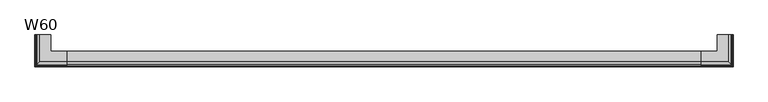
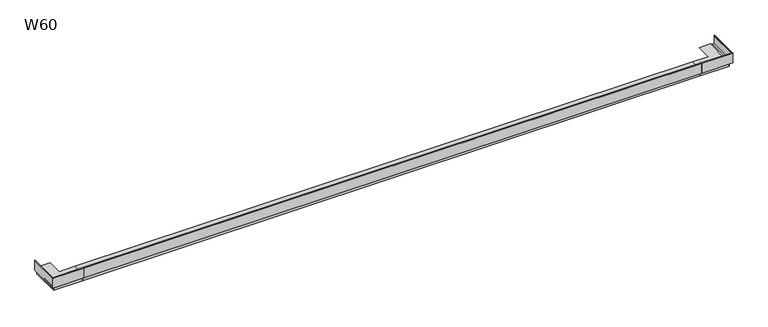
"""IFC4 building model written with IfcOpenShell, lengths in millimetres: proxy geometry, W60 Profil okapowy prosty : W60."""

import ifcopenshell
import ifcopenshell.guid

model = None  # the IFC model being written
_history = None  # IfcOwnerHistory: only IFC2X3 demands one
_inside = {}  # id of a spatial element -> (the spatial element, [elements in it])
_under = {}  # id of a project, library or spatial element -> (it, [spatial elements below it])
_declared = {}  # id of a project -> (the project, [libraries it declares])
_typed = {}  # id of a type object -> (the type object, [elements of that type])
_made_of = {}  # id of a material, layer set ... -> (it, [elements and type objects made of it])


def new_model(schema):
    """Start an empty IFC model of exactly this schema.

    Asked for "IFC4X3", IfcOpenShell would pick the latest addendum, in which some entities
    have other attributes; the version numbers below select the first issue.
    IFC2X3 requires an IfcOwnerHistory on every rooted entity: one is made here for all.
    """
    global model, _history
    if schema == "IFC4X3":
        model = ifcopenshell.file(schema_version=(4, 3, 0, 0))
    else:
        model = ifcopenshell.file(schema=schema)
    _inside.clear()
    _under.clear()
    _declared.clear()
    _typed.clear()
    _made_of.clear()
    _history = None
    if model.schema == "IFC2X3":
        org = make("IfcOrganization", Name="unknown")
        user = make(
            "IfcPersonAndOrganization",
            ThePerson=make("IfcPerson", FamilyName="unknown"),
            TheOrganization=org,
        )
        app = make(
            "IfcApplication",
            ApplicationDeveloper=org,
            Version="unknown",
            ApplicationFullName="unknown",
            ApplicationIdentifier="unknown",
        )
        _history = make(
            "IfcOwnerHistory",
            OwningUser=user,
            OwningApplication=app,
            ChangeAction="ADDED",
            CreationDate=0,
        )
    return model


def make(cls, **values):
    """One entity of the class cls with the attributes given. An attribute that is None is left unset."""
    return model.create_entity(
        cls, **{name: value for name, value in values.items() if value is not None}
    )


def rooted(cls, **values):
    """An entity with a GlobalId (a new one), such as an element, a storey or a relation."""
    return make(cls, GlobalId=ifcopenshell.guid.new(), OwnerHistory=_history, **values)


def si_unit(unit_type, name, prefix=None):
    """IfcSIUnit, for example si_unit("LENGTHUNIT", "METRE", prefix="MILLI")."""
    return make("IfcSIUnit", UnitType=unit_type, Prefix=prefix, Name=name)


def assignment(units):
    """IfcUnitAssignment: the units of a project."""
    return None if units is None else make("IfcUnitAssignment", Units=units)


def point(xyz):
    """IfcCartesianPoint."""
    return None if xyz is None else make("IfcCartesianPoint", Coordinates=xyz)


def direction(xyz):
    """IfcDirection."""
    return None if xyz is None else make("IfcDirection", DirectionRatios=xyz)


def frame(location, z_axis=None, x_axis=None):
    """IfcAxis2Placement3D, a coordinate frame: its origin and axes. An axis left out is left unset."""
    return make(
        "IfcAxis2Placement3D",
        Location=point(location),
        Axis=direction(z_axis),
        RefDirection=direction(x_axis),
    )


def frame_2d(location, x_axis=None):
    """IfcAxis2Placement2D, a coordinate frame in the plane: its origin and x axis."""
    return make(
        "IfcAxis2Placement2D", Location=point(location), RefDirection=direction(x_axis)
    )


def origin():
    """The frame at (0, 0, 0) with its axes left unset."""
    return frame((0.0, 0.0, 0.0))


def place(relative_to, where):
    """IfcLocalPlacement: puts the frame where relative to a parent placement (None: the world)."""
    return make(
        "IfcLocalPlacement", PlacementRelTo=relative_to, RelativePlacement=where
    )


def context(
    kind, dimensions, precision=None, world=None, true_north=None, identifier=None
):
    """IfcGeometricRepresentationContext, for example the 3D "Model" context."""
    return make(
        "IfcGeometricRepresentationContext",
        ContextIdentifier=identifier,
        ContextType=kind,
        CoordinateSpaceDimension=dimensions,
        Precision=precision,
        WorldCoordinateSystem=world,
        TrueNorth=true_north,
    )


def project(units=None, contexts=None):
    """IfcProject with its units and contexts."""
    return rooted(
        "IfcProject",
        Name="project",
        RepresentationContexts=contexts,
        UnitsInContext=assignment(units),
    )


def spatial(cls, under=None, at=None, **own):
    """A site, building, storey or space (cls), placed at a placement, below another one or the project."""
    s = rooted(cls, ObjectPlacement=at, **own)
    if under is not None:
        _under.setdefault(under.id(), (under, []))[1].append(s)
    return s


def polyline(points):
    """IfcPolyline through the points."""
    return make("IfcPolyline", Points=[point(p) for p in points])


def circle_curve(where, radius):
    """IfcCircle in the frame where."""
    return make("IfcCircle", Position=where, Radius=radius)


def ellipse_curve(where, semi_axis1, semi_axis2):
    """IfcEllipse in the frame where."""
    return make(
        "IfcEllipse", Position=where, SemiAxis1=semi_axis1, SemiAxis2=semi_axis2
    )


def trimmed(basis, trim1, trim2, sense, master):
    """IfcTrimmedCurve: the piece of a basis curve between two trims."""
    return make(
        "IfcTrimmedCurve",
        BasisCurve=basis,
        Trim1=trim1,
        Trim2=trim2,
        SenseAgreement=sense,
        MasterRepresentation=master,
    )


def segment(curve, same_sense, transition):
    """IfcCompositeCurveSegment."""
    return make(
        "IfcCompositeCurveSegment",
        Transition=transition,
        SameSense=same_sense,
        ParentCurve=curve,
    )


def composite_curve(segments, self_intersect=None):
    """IfcCompositeCurve: segments joined end to end."""
    return make("IfcCompositeCurve", Segments=segments, SelfIntersect=self_intersect)


def outline(outer, holes=None, kind="AREA"):
    """IfcArbitraryClosedProfileDef: a profile drawn as a closed curve; with holes, ...WithVoids."""
    if holes is None:
        return make("IfcArbitraryClosedProfileDef", ProfileType=kind, OuterCurve=outer)
    return make(
        "IfcArbitraryProfileDefWithVoids",
        ProfileType=kind,
        OuterCurve=outer,
        InnerCurves=holes,
    )


def extrude(swept, where, along, depth):
    """IfcExtrudedAreaSolid: the profile swept, set in the frame where, extruded along a direction by depth."""
    return make(
        "IfcExtrudedAreaSolid",
        SweptArea=swept,
        Position=where,
        ExtrudedDirection=direction(along),
        Depth=depth,
    )


def shape(context_of_items, identifier, shape_type, items):
    """IfcShapeRepresentation: the items that make up one representation, for example the "Body"."""
    return make(
        "IfcShapeRepresentation",
        ContextOfItems=context_of_items,
        RepresentationIdentifier=identifier,
        RepresentationType=shape_type,
        Items=items,
    )


def source(mapping_origin, context_of_items, identifier, shape_type, items):
    """IfcRepresentationMap: a shape defined once, which mapped items show again and again."""
    return make(
        "IfcRepresentationMap",
        MappingOrigin=mapping_origin,
        MappedRepresentation=shape(context_of_items, identifier, shape_type, items),
    )


def transform(
    local_origin,
    x_axis=None,
    y_axis=None,
    z_axis=None,
    scale=None,
    scale2=None,
    scale3=None,
    uniform=True,
):
    """IfcCartesianTransformationOperator3D, or its non-uniform kind. x_axis, y_axis, z_axis: its Axis1, 2, 3."""
    if uniform:
        return make(
            "IfcCartesianTransformationOperator3D",
            Axis1=direction(x_axis),
            Axis2=direction(y_axis),
            LocalOrigin=point(local_origin),
            Scale=scale,
            Axis3=direction(z_axis),
        )
    return make(
        "IfcCartesianTransformationOperator3DnonUniform",
        Axis1=direction(x_axis),
        Axis2=direction(y_axis),
        LocalOrigin=point(local_origin),
        Scale=scale,
        Axis3=direction(z_axis),
        Scale2=scale2,
        Scale3=scale3,
    )


def mapped(mapping_source, mapping_target):
    """IfcMappedItem: shows the shape of a source again, moved by a transform."""
    return make(
        "IfcMappedItem", MappingSource=mapping_source, MappingTarget=mapping_target
    )


def made_of(thing, what):
    """Note that an element or type object is made of a material, layer set ...; save() writes the relation."""
    if what is not None:
        _made_of.setdefault(what.id(), (what, []))[1].append(thing)
    return thing


def element(
    cls,
    number,
    at=None,
    inside=None,
    cuts=None,
    type_object=None,
    material=None,
    context=None,
    identifier="Body",
    shape_type=None,
    held_by="IfcProductDefinitionShape",
    body=None,
    shapes=None,
    **own,
):
    """One element of the class cls, such as IfcWall. Its Tag is "e" and its number.

    at: its placement. inside: the storey or other place that contains it. cuts: it is an
    opening in that element (IfcRelVoidsElement). A single representation is given by context,
    identifier, shape_type and body (its items); several are given by shapes. held_by: the class
    of the entity that holds the representations. save() writes the other relations.
    """
    e = rooted(cls, Tag="e%d" % number, ObjectPlacement=at, **own)
    if body is not None:
        shapes = [shape(context, identifier, shape_type, body)]
    if shapes is not None:
        e.Representation = make(held_by, Representations=shapes)
    if inside is not None:
        _inside.setdefault(inside.id(), (inside, []))[1].append(e)
    if cuts is not None:
        rooted(
            "IfcRelVoidsElement", RelatingBuildingElement=cuts, RelatedOpeningElement=e
        )
    if type_object is not None:
        _typed.setdefault(type_object.id(), (type_object, []))[1].append(e)
    return made_of(e, material)


def aggregate(whole, parts):
    """IfcRelAggregates: a whole, such as a stair, and the parts it consists of."""
    return rooted("IfcRelAggregates", RelatingObject=whole, RelatedObjects=parts)


def save(model, path):
    """Write the relations noted so far, then the file.

    IfcRelAggregates (storeys below a building ...), IfcRelContainedInSpatialStructure (elements
    in a storey), IfcRelDefinesByType, IfcRelAssociatesMaterial and IfcRelDeclares: one each for
    every whole, place, type object, material and project.
    """
    for whole, parts in _under.values():
        aggregate(whole, parts)
    for where, things in _inside.values():
        rooted(
            "IfcRelContainedInSpatialStructure",
            RelatedElements=things,
            RelatingStructure=where,
        )
    for kind, things in _typed.values():
        rooted("IfcRelDefinesByType", RelatedObjects=things, RelatingType=kind)
    for what, things in _made_of.values():
        rooted("IfcRelAssociatesMaterial", RelatedObjects=things, RelatingMaterial=what)
    for by, libraries in _declared.values():
        rooted("IfcRelDeclares", RelatingContext=by, RelatedDefinitions=libraries)
    model.write(path)


def plane_surface(at):
    """IfcPlane: the flat surface through the origin of the frame at, square to its z axis."""
    return make("IfcPlane", Position=at)


def cylinder_surface(at, radius):
    """IfcCylindricalSurface: all points at the distance radius from the z axis of the frame at."""
    return make("IfcCylindricalSurface", Position=at, Radius=radius)


def revolved_surface(curve, axis_point, axis_direction):
    """IfcSurfaceOfRevolution: the curve turned about the line through axis_point along axis_direction."""
    return make(
        "IfcSurfaceOfRevolution",
        SweptCurve=make("IfcArbitraryOpenProfileDef", ProfileType="CURVE", Curve=curve),
        AxisPosition=make("IfcAxis1Placement", Location=point(axis_point), Axis=direction(axis_direction)),
    )


def advanced_brep(points, edges, surfaces, faces):
    """IfcAdvancedBrep: a solid bounded by faces that lie on surfaces and meet in shared edges.

    An edge is (start, end): straight between two places in points (the first is 0);
    or (start, end, curve); or (start, end, curve, False) where it runs against its curve.
    A face is (place in surfaces, loops), or (place, loops, False) where it looks against
    its surface's normal. A loop lists edges by number (the first is 1), with a minus sign
    where the edge is run from its end to its start. The first loop is the outer one.
    """
    corners = [point(p) for p in points]
    vertices = [make("IfcVertexPoint", VertexGeometry=c) for c in corners]
    made = []
    for start, end, *more in edges:
        made.append(
            make(
                "IfcEdgeCurve",
                EdgeStart=vertices[start],
                EdgeEnd=vertices[end],
                EdgeGeometry=more[0] if more else make("IfcPolyline", Points=[corners[start], corners[end]]),
                SameSense=more[1] if len(more) > 1 else True,
            )
        )
    hull = []
    for where, loops, *sense in faces:
        bounds = []
        for j, loop in enumerate(loops):
            ring = [make("IfcOrientedEdge", EdgeElement=made[abs(k) - 1], Orientation=k > 0) for k in loop]
            bounds.append(
                make(
                    "IfcFaceOuterBound" if j == 0 else "IfcFaceBound",
                    Bound=make("IfcEdgeLoop", EdgeList=ring),
                    Orientation=True,
                )
            )
        hull.append(make("IfcAdvancedFace", Bounds=bounds, FaceSurface=surfaces[where], SameSense=sense[0] if sense else True))
    return make("IfcAdvancedBrep", Outer=make("IfcClosedShell", CfsFaces=hull))


def w60_6fb74b1a(model_context):
    return source(origin(), model_context, "Body", "SolidModel", [
        advanced_brep(
        [(4926.0, -35.3, 58.0041739), (4926.0, -35.3, 55.1), (4926.0, -32.2, 55.1), (4926.0, -32.2, 53.6), (4926.0, -35.3, 53.6), (4926.0, -35.3, -10.3), (4926.0, -21.4577341, -10.3), (4926.0, -1.5870197, 0.0), (4926.0, 80.0, 0.0), (4926.0, 80.0, -1.7), (4926.0, 0.0, -1.7), (4926.0, 0.0, -4.7), (4926.0, -1.7, -4.7), (4926.0, -1.7, -1.9733759), (4926.0, -19.8, -11.3555248), (4926.0, -19.8, -50.5449747), (4926.0, -21.5, -52.2449747), (4926.0, -21.5, -12.0), (4926.0, -35.3, -12.0), (4926.0, -35.3, -20.9113249), (4926.0, -37.0, -21.8928203), (4926.0, -37.0, 58.0077037), (4926.0, -34.2, 60.8077037), (4926.0, -34.2, 58.9991614), (5161.3, 200.0, 58.0041739), (5160.2, 200.0, 58.9991614), (5160.2, 200.0, 60.8077037), (5163.0, 200.0, 58.0077037), (5163.0, 200.0, -21.8928203), (5161.3, 200.0, -20.9113249), (5161.3, 200.0, -12.0), (5147.5, 200.0, -12.0), (5147.5, 200.0, -52.2449747), (5145.8, 200.0, -50.5449747), (5145.8, 200.0, -11.3555248), (5127.7, 200.0, -1.9733759), (5127.7, 200.0, -4.7), (5126.0, 200.0, -4.7), (5126.0, 200.0, -1.7), (5046.0, 200.0, -1.7), (5046.0, 200.0, 0.0), (5127.5870197, 200.0, 0.0), (5147.4577341, 200.0, -10.3), (5161.3, 200.0, -10.3), (5161.3, 200.0, 53.6), (5158.2, 200.0, 53.6), (5158.2, 200.0, 55.1), (5161.3, 200.0, 55.1), (5160.2, -34.2, 58.9991614), (5161.3, -35.3, 58.0041739), (5160.2, -34.2, 60.8077037), (5163.0, -37.0, 58.0077037), (5163.0, -37.0, -21.8928203), (5161.3, -35.3, -20.9113249), (5161.3, -35.3, -12.0), (5147.5, -21.5, -12.0), (5147.5, -21.5, -52.2449747), (5145.8, -19.8, -50.5449747), (5145.8, -19.8, -11.3555248), (5127.7, -1.7, -1.9733759), (5127.7, -1.7, -4.7), (5126.0, 0.0, -4.7), (5126.0, 0.0, -1.7), (5046.0, 80.0, -1.7), (5046.0, 80.0, 0.0), (5127.5870197, -1.5870197, 0.0), (5147.4577341, -21.4577341, -10.3), (5161.3, -35.3, -10.3), (5161.3, -35.3, 53.6), (5158.2, -32.2, 53.6), (5158.2, -32.2, 55.1), (5161.3, -35.3, 55.1)],
        [
            (0, 1),
            (1, 2),
            (2, 3),
            (3, 4),
            (4, 5),
            (5, 6),
            (6, 7),
            (7, 8),
            (8, 9),
            (9, 10),
            (10, 11),
            (11, 12),
            (12, 13),
            (13, 14),
            (14, 15),
            (15, 16),
            (16, 17),
            (17, 18),
            (18, 19),
            (19, 20),
            (20, 21),
            (21, 22, circle_curve(frame((4926.0, -34.2, 58.0077037), z_axis=(-1.0, 0.0, 0.0), x_axis=(0.0, 1.0, 0.0)), 2.8)),
            (22, 23),
            (23, 0, circle_curve(frame((4926.0, -34.3, 58.0041739), z_axis=(1.0, 0.0, 0.0), x_axis=(0.0, 1.0, 0.0)), 1.0)),
            (24, 25, circle_curve(frame((5160.3, 200.0, 58.0041739), z_axis=(0.0, -1.0, 0.0), x_axis=(-1.0, 0.0, 0.0)), 1.0)),
            (25, 26),
            (26, 27, circle_curve(frame((5160.2, 200.0, 58.0077037), z_axis=(0.0, 1.0, 0.0), x_axis=(-1.0, 0.0, 0.0)), 2.8)),
            (27, 28),
            (28, 29),
            (29, 30),
            (30, 31),
            (31, 32),
            (32, 33),
            (33, 34),
            (34, 35),
            (35, 36),
            (36, 37),
            (37, 38),
            (38, 39),
            (39, 40),
            (40, 41),
            (41, 42),
            (42, 43),
            (43, 44),
            (44, 45),
            (45, 46),
            (46, 47),
            (47, 24),
            (23, 48),
            (48, 49, ellipse_curve(frame((5160.3, -34.3, 58.0041739), z_axis=(0.7071067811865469, 0.707106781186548, 0.0), x_axis=(0.7071067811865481, -0.7071067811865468, 0.0)), 1.4142136, 1.0)),
            (49, 0),
            (22, 50),
            (50, 48),
            (21, 51),
            (51, 50, ellipse_curve(frame((5160.2, -34.2, 58.0077037), z_axis=(-0.7071067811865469, -0.707106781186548, 0.0), x_axis=(-0.7071067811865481, 0.7071067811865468, 0.0)), 3.959798, 2.8)),
            (20, 52),
            (52, 51),
            (19, 53),
            (53, 52),
            (18, 54),
            (54, 53),
            (17, 55),
            (55, 31),
            (30, 54),
            (16, 56),
            (56, 55),
            (15, 57),
            (57, 56),
            (14, 58),
            (58, 57),
            (13, 59),
            (59, 58),
            (12, 60),
            (60, 59),
            (11, 61),
            (61, 37),
            (36, 60),
            (10, 62),
            (62, 61),
            (9, 63),
            (63, 39),
            (38, 62),
            (8, 64),
            (64, 63),
            (7, 65),
            (65, 41),
            (40, 64),
            (6, 66),
            (66, 65),
            (5, 67),
            (67, 43),
            (42, 66),
            (4, 68),
            (68, 67),
            (3, 69),
            (69, 45),
            (44, 68),
            (2, 70),
            (70, 69),
            (1, 71),
            (71, 47),
            (46, 70),
            (49, 71),
            (48, 25),
            (24, 49),
            (50, 26),
            (51, 27),
            (52, 28),
            (53, 29),
            (56, 32),
            (57, 33),
            (58, 34),
            (59, 35),
        ],
        [
            plane_surface(frame((4926.0, 0.0, 0.0), z_axis=(-1.0, 0.0, 0.0), x_axis=(0.0, 0.0, 1.0))),
            plane_surface(frame((5126.0, 200.0, 0.0), z_axis=(0.0, 1.0, 0.0), x_axis=(0.0, 0.0, 1.0))),
            revolved_surface(polyline([(5161.3000000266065, -33.3, 58.0041739), (4926.0, -33.3, 58.0041739)]), (4926.0, -34.3, 58.0041739), (1.0, 0.0, 0.0)),
            plane_surface(frame((4926.0, -34.2, 58.9991614), z_axis=(0.0, 1.0, 0.0), x_axis=(1.0, 0.0, 0.0))),
            cylinder_surface(frame((4926.0, -34.2, 58.0077037), z_axis=(-1.0, 0.0, 0.0), x_axis=(0.0, 1.0, 0.0)), 2.8),
            plane_surface(frame((4926.0, -37.0, 58.0077037), z_axis=(0.0, -1.0, 0.0), x_axis=(1.0, 0.0, 0.0))),
            plane_surface(frame((4926.0, -37.0, -21.8928203), z_axis=(0.0, 0.5000000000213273, -0.8660254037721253), x_axis=(1.0, 0.0, 0.0))),
            plane_surface(frame((4926.0, -35.3, -20.9113249), z_axis=(0.0, 1.0, 0.0), x_axis=(1.0, 0.0, 0.0))),
            plane_surface(frame((4926.0, -35.3, -12.0), z_axis=(0.0, 0.0, -1.0), x_axis=(1.0, 0.0, 0.0))),
            plane_surface(frame((4926.0, -21.5, -12.0), z_axis=(0.0, -1.0, 0.0), x_axis=(1.0, 0.0, 0.0))),
            plane_surface(frame((4926.0, -21.5, -52.2449747), z_axis=(0.0, 0.7071067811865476, -0.7071067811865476), x_axis=(1.0, 0.0, 0.0))),
            plane_surface(frame((4926.0, -19.8, -50.5449747), z_axis=(0.0, 1.0, 0.0), x_axis=(1.0, 0.0, 0.0))),
            plane_surface(frame((4926.0, -19.8, -11.3555248), z_axis=(0.0, 0.4601997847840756, -0.8878153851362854), x_axis=(1.0, 0.0, 0.0))),
            plane_surface(frame((4926.0, -1.7, -1.9733759), z_axis=(0.0, -1.0, 0.0), x_axis=(1.0, 0.0, 0.0))),
            plane_surface(frame((4926.0, -1.7, -4.7), z_axis=(0.0, 0.0, -1.0), x_axis=(1.0, 0.0, 0.0))),
            plane_surface(frame((4926.0, 0.0, -4.7), z_axis=(0.0, 1.0, 0.0), x_axis=(1.0, 0.0, 0.0))),
            plane_surface(frame((4926.0, 0.0, -1.7), z_axis=(0.0, 0.0, -1.0), x_axis=(1.0, 0.0, 0.0))),
            plane_surface(frame((4926.0, 80.0, -1.7), z_axis=(0.0, 1.0, 0.0), x_axis=(1.0, 0.0, 0.0))),
            plane_surface(frame((4926.0, 80.0, 0.0), z_axis=(0.0, 0.0, 1.0), x_axis=(1.0, 0.0, 0.0))),
            plane_surface(frame((4926.0, -1.5870197, 0.0), z_axis=(0.0, -0.46019978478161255, 0.8878153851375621), x_axis=(1.0, 0.0, 0.0))),
            plane_surface(frame((4926.0, -21.4577341, -10.3), z_axis=(0.0, 0.0, 1.0), x_axis=(1.0, 0.0, 0.0))),
            plane_surface(frame((4926.0, -35.3, -10.3), z_axis=(0.0, 1.0, 0.0), x_axis=(1.0, 0.0, 0.0))),
            plane_surface(frame((4926.0, -35.3, 53.6), z_axis=(0.0, 0.0, -1.0), x_axis=(1.0, 0.0, 0.0))),
            plane_surface(frame((4926.0, -32.2, 53.6), z_axis=(0.0, 1.0, 0.0), x_axis=(1.0, 0.0, 0.0))),
            plane_surface(frame((4926.0, -32.2, 55.1), z_axis=(0.0, 0.0, 1.0), x_axis=(1.0, 0.0, 0.0))),
            plane_surface(frame((4926.0, -35.3, 55.1), z_axis=(0.0, 1.0, 0.0), x_axis=(1.0, 0.0, 0.0))),
            revolved_surface(polyline([(5159.3, 200.0, 58.0041739), (5159.3, -35.300000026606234, 58.0041739)]), (5160.3, 0.0, 58.0041739), (0.0, 1.0, 0.0)),
            plane_surface(frame((5160.2, -34.2, 58.9991614), z_axis=(-1.0, 0.0, 0.0), x_axis=(0.0, 1.0, 0.0))),
            cylinder_surface(frame((5160.2, 0.0, 58.0077037), z_axis=(0.0, -1.0, 0.0), x_axis=(-1.0, 0.0, 0.0)), 2.8),
            plane_surface(frame((5163.0, -37.0, 58.0077037), z_axis=(1.0, 0.0, 0.0), x_axis=(0.0, 1.0, 0.0))),
            plane_surface(frame((5163.0, -37.0, -21.8928203), z_axis=(-0.5000000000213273, 0.0, -0.8660254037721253), x_axis=(0.0, 1.0, 0.0))),
            plane_surface(frame((5161.3, -35.3, -20.9113249), z_axis=(-1.0, 0.0, 0.0), x_axis=(0.0, 1.0, 0.0))),
            plane_surface(frame((5147.5, -21.5, -12.0), z_axis=(1.0, 0.0, 0.0), x_axis=(0.0, 1.0, 0.0))),
            plane_surface(frame((5147.5, -21.5, -52.2449747), z_axis=(-0.7071067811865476, 0.0, -0.7071067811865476), x_axis=(0.0, 1.0, 0.0))),
            plane_surface(frame((5145.8, -19.8, -50.5449747), z_axis=(-1.0, 0.0, 0.0), x_axis=(0.0, 1.0, 0.0))),
            plane_surface(frame((5145.8, -19.8, -11.3555248), z_axis=(-0.4601997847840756, 0.0, -0.8878153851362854), x_axis=(0.0, 1.0, 0.0))),
            plane_surface(frame((5127.7, -1.7, -1.9733759), z_axis=(1.0, 0.0, 0.0), x_axis=(0.0, 1.0, 0.0))),
            plane_surface(frame((5126.0, 0.0, -4.7), z_axis=(-1.0, 0.0, 0.0), x_axis=(0.0, 1.0, 0.0))),
            plane_surface(frame((5046.0, 80.0, -1.7), z_axis=(-1.0, 0.0, 0.0), x_axis=(0.0, 1.0, 0.0))),
            plane_surface(frame((5127.5870197, -1.5870197, 0.0), z_axis=(0.46019978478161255, 0.0, 0.8878153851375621), x_axis=(0.0, 1.0, 0.0))),
            plane_surface(frame((5161.3, -35.3, -10.3), z_axis=(-1.0, 0.0, 0.0), x_axis=(0.0, 1.0, 0.0))),
            plane_surface(frame((5158.2, -32.2, 53.6), z_axis=(-1.0, 0.0, 0.0), x_axis=(0.0, 1.0, 0.0))),
            plane_surface(frame((5161.3, -35.3, 55.1), z_axis=(-1.0, 0.0, 0.0), x_axis=(0.0, 1.0, 0.0))),
        ],
        [
            (0, [[1, 2, 3, 4, 5, 6, 7, 8, 9, 10, 11, 12, 13, 14, 15, 16, 17, 18, 19, 20, 21, 22, 23, 24]]),
            (1, [[25, 26, 27, 28, 29, 30, 31, 32, 33, 34, 35, 36, 37, 38, 39, 40, 41, 42, 43, 44, 45, 46, 47, 48]]),
            (2, [[49, 50, 51, -24]]),
            (3, [[52, 53, -49, -23]]),
            (4, [[54, 55, -52, -22]]),
            (5, [[56, 57, -54, -21]]),
            (6, [[58, 59, -56, -20]]),
            (7, [[60, 61, -58, -19]]),
            (8, [[62, 63, -31, 64, -60, -18]]),
            (9, [[65, 66, -62, -17]]),
            (10, [[67, 68, -65, -16]]),
            (11, [[69, 70, -67, -15]]),
            (12, [[71, 72, -69, -14]]),
            (13, [[73, 74, -71, -13]]),
            (14, [[75, 76, -37, 77, -73, -12]]),
            (15, [[78, 79, -75, -11]]),
            (16, [[80, 81, -39, 82, -78, -10]]),
            (17, [[83, 84, -80, -9]]),
            (18, [[85, 86, -41, 87, -83, -8]]),
            (19, [[88, 89, -85, -7]]),
            (20, [[90, 91, -43, 92, -88, -6]]),
            (21, [[93, 94, -90, -5]]),
            (22, [[95, 96, -45, 97, -93, -4]]),
            (23, [[98, 99, -95, -3]]),
            (24, [[100, 101, -47, 102, -98, -2]]),
            (25, [[-51, 103, -100, -1]]),
            (26, [[104, -25, 105, -50]]),
            (27, [[106, -26, -104, -53]]),
            (28, [[107, -27, -106, -55]]),
            (29, [[108, -28, -107, -57]]),
            (30, [[109, -29, -108, -59]]),
            (31, [[-64, -30, -109, -61]]),
            (32, [[110, -32, -63, -66]]),
            (33, [[111, -33, -110, -68]]),
            (34, [[112, -34, -111, -70]]),
            (35, [[113, -35, -112, -72]]),
            (36, [[-77, -36, -113, -74]]),
            (37, [[-82, -38, -76, -79]]),
            (38, [[-87, -40, -81, -84]]),
            (39, [[-92, -42, -86, -89]]),
            (40, [[-97, -44, -91, -94]]),
            (41, [[-102, -46, -96, -99]]),
            (42, [[-105, -48, -101, -103]]),
        ],
    ),
        advanced_brep(
        [(200.0, -35.3, 58.0041739), (200.0, -34.2, 58.9991614), (200.0, -34.2, 60.8077037), (200.0, -37.0, 58.0077037), (200.0, -37.0, -21.8928203), (200.0, -35.3, -20.9113249), (200.0, -35.3, -12.0), (200.0, -21.5, -12.0), (200.0, -21.5, -52.2449747), (200.0, -19.8, -50.5449747), (200.0, -19.8, -11.3555248), (200.0, -1.7, -1.9733759), (200.0, -1.7, -4.7), (200.0, 0.0, -4.7), (200.0, 0.0, -1.7), (200.0, 80.0, -1.7), (200.0, 80.0, 0.0), (200.0, -1.5870197, 0.0), (200.0, -21.4577341, -10.3), (200.0, -35.3, -10.3), (200.0, -35.3, 53.6), (200.0, -32.2, 53.6), (200.0, -32.2, 55.1), (200.0, -35.3, 55.1), (-35.3, 200.0, 58.0041739), (-35.3, 200.0, 55.1), (-32.2, 200.0, 55.1), (-32.2, 200.0, 53.6), (-35.3, 200.0, 53.6), (-35.3, 200.0, -10.3), (-21.4577341, 200.0, -10.3), (-1.5870197, 200.0, 0.0), (80.0, 200.0, 0.0), (80.0, 200.0, -1.7), (0.0, 200.0, -1.7), (0.0, 200.0, -4.7), (-1.7, 200.0, -4.7), (-1.7, 200.0, -1.9733759), (-19.8, 200.0, -11.3555248), (-19.8, 200.0, -50.5449747), (-21.5, 200.0, -52.2449747), (-21.5, 200.0, -12.0), (-35.3, 200.0, -12.0), (-35.3, 200.0, -20.9113249), (-37.0, 200.0, -21.8928203), (-37.0, 200.0, 58.0077037), (-34.2, 200.0, 60.8077037), (-34.2, 200.0, 58.9991614), (-35.3, -35.3, 58.0041739), (-34.2, -34.2, 58.9991614), (-34.2, -34.2, 60.8077037), (-37.0, -37.0, 58.0077037), (-37.0, -37.0, -21.8928203), (-35.3, -35.3, -20.9113249), (-35.3, -35.3, -12.0), (-21.5, -21.5, -12.0), (-21.5, -21.5, -52.2449747), (-19.8, -19.8, -50.5449747), (-19.8, -19.8, -11.3555248), (-1.7, -1.7, -1.9733759), (-1.7, -1.7, -4.7), (0.0, 0.0, -4.7), (0.0, 0.0, -1.7), (80.0, 80.0, -1.7), (80.0, 80.0, 0.0), (-1.5870197, -1.5870197, 0.0), (-21.4577341, -21.4577341, -10.3), (-35.3, -35.3, -10.3), (-35.3, -35.3, 53.6), (-32.2, -32.2, 53.6), (-32.2, -32.2, 55.1), (-35.3, -35.3, 55.1)],
        [
            (0, 1, circle_curve(frame((200.0, -34.3, 58.0041739), z_axis=(-1.0, 0.0, 0.0), x_axis=(0.0, 1.0, 0.0)), 1.0)),
            (1, 2),
            (2, 3, circle_curve(frame((200.0, -34.2, 58.0077037), z_axis=(1.0, 0.0, 0.0), x_axis=(0.0, 1.0, 0.0)), 2.8)),
            (3, 4),
            (4, 5),
            (5, 6),
            (6, 7),
            (7, 8),
            (8, 9),
            (9, 10),
            (10, 11),
            (11, 12),
            (12, 13),
            (13, 14),
            (14, 15),
            (15, 16),
            (16, 17),
            (17, 18),
            (18, 19),
            (19, 20),
            (20, 21),
            (21, 22),
            (22, 23),
            (23, 0),
            (24, 25),
            (25, 26),
            (26, 27),
            (27, 28),
            (28, 29),
            (29, 30),
            (30, 31),
            (31, 32),
            (32, 33),
            (33, 34),
            (34, 35),
            (35, 36),
            (36, 37),
            (37, 38),
            (38, 39),
            (39, 40),
            (40, 41),
            (41, 42),
            (42, 43),
            (43, 44),
            (44, 45),
            (45, 46, circle_curve(frame((-34.2, 200.0, 58.0077037), z_axis=(0.0, 1.0, 0.0), x_axis=(1.0, 0.0, 0.0)), 2.8)),
            (46, 47),
            (47, 24, circle_curve(frame((-34.3, 200.0, 58.0041739), z_axis=(0.0, -1.0, 0.0), x_axis=(1.0, 0.0, 0.0)), 1.0)),
            (0, 48),
            (48, 49, ellipse_curve(frame((-34.3, -34.3, 58.0041739), z_axis=(-0.7071067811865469, 0.707106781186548, 0.0), x_axis=(-0.7071067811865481, -0.7071067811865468, 0.0)), 1.4142136, 1.0)),
            (49, 1),
            (49, 50),
            (50, 2),
            (50, 51, ellipse_curve(frame((-34.2, -34.2, 58.0077037), z_axis=(0.7071067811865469, -0.707106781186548, 0.0), x_axis=(0.7071067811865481, 0.7071067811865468, 0.0)), 3.959798, 2.8)),
            (51, 3),
            (51, 52),
            (52, 4),
            (52, 53),
            (53, 5),
            (53, 54),
            (54, 6),
            (54, 42),
            (41, 55),
            (55, 7),
            (55, 56),
            (56, 8),
            (56, 57),
            (57, 9),
            (57, 58),
            (58, 10),
            (58, 59),
            (59, 11),
            (59, 60),
            (60, 12),
            (60, 36),
            (35, 61),
            (61, 13),
            (61, 62),
            (62, 14),
            (62, 34),
            (33, 63),
            (63, 15),
            (63, 64),
            (64, 16),
            (64, 32),
            (31, 65),
            (65, 17),
            (65, 66),
            (66, 18),
            (66, 30),
            (29, 67),
            (67, 19),
            (67, 68),
            (68, 20),
            (68, 28),
            (27, 69),
            (69, 21),
            (69, 70),
            (70, 22),
            (70, 26),
            (25, 71),
            (71, 23),
            (71, 48),
            (48, 24),
            (47, 49),
            (46, 50),
            (45, 51),
            (44, 52),
            (43, 53),
            (40, 56),
            (39, 57),
            (38, 58),
            (37, 59),
        ],
        [
            plane_surface(frame((200.0, 0.0, 0.0), z_axis=(1.0, 0.0, 0.0), x_axis=(0.0, 0.0, 1.0))),
            plane_surface(frame((0.0, 200.0, 0.0), z_axis=(0.0, 1.0, 0.0), x_axis=(0.0, 0.0, 1.0))),
            revolved_surface(polyline([(-35.300000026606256, -33.3, 58.0041739), (200.0, -33.3, 58.0041739)]), (200.0, -34.3, 58.0041739), (-1.0, 0.0, 0.0)),
            plane_surface(frame((200.0, -34.2, 58.9991614), z_axis=(0.0, 1.0, 0.0), x_axis=(-1.0, 0.0, 0.0))),
            cylinder_surface(frame((200.0, -34.2, 58.0077037), z_axis=(1.0, 0.0, 0.0), x_axis=(0.0, 1.0, 0.0)), 2.8),
            plane_surface(frame((200.0, -37.0, 58.0077037), z_axis=(0.0, -1.0, 0.0), x_axis=(-1.0, 0.0, 0.0))),
            plane_surface(frame((200.0, -37.0, -21.8928203), z_axis=(0.0, 0.5000000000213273, -0.8660254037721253), x_axis=(-1.0, 0.0, 0.0))),
            plane_surface(frame((200.0, -35.3, -20.9113249), z_axis=(0.0, 1.0, 0.0), x_axis=(-1.0, 0.0, 0.0))),
            plane_surface(frame((200.0, -35.3, -12.0), z_axis=(0.0, 0.0, -1.0), x_axis=(-1.0, 0.0, 0.0))),
            plane_surface(frame((200.0, -21.5, -12.0), z_axis=(0.0, -1.0, 0.0), x_axis=(-1.0, 0.0, 0.0))),
            plane_surface(frame((200.0, -21.5, -52.2449747), z_axis=(0.0, 0.7071067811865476, -0.7071067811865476), x_axis=(-1.0, 0.0, 0.0))),
            plane_surface(frame((200.0, -19.8, -50.5449747), z_axis=(0.0, 1.0, 0.0), x_axis=(-1.0, 0.0, 0.0))),
            plane_surface(frame((200.0, -19.8, -11.3555248), z_axis=(0.0, 0.4601997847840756, -0.8878153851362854), x_axis=(-1.0, 0.0, 0.0))),
            plane_surface(frame((200.0, -1.7, -1.9733759), z_axis=(0.0, -1.0, 0.0), x_axis=(-1.0, 0.0, 0.0))),
            plane_surface(frame((200.0, -1.7, -4.7), z_axis=(0.0, 0.0, -1.0), x_axis=(-1.0, 0.0, 0.0))),
            plane_surface(frame((200.0, 0.0, -4.7), z_axis=(0.0, 1.0, 0.0), x_axis=(-1.0, 0.0, 0.0))),
            plane_surface(frame((200.0, 0.0, -1.7), z_axis=(0.0, 0.0, -1.0), x_axis=(-1.0, 0.0, 0.0))),
            plane_surface(frame((200.0, 80.0, -1.7), z_axis=(0.0, 1.0, 0.0), x_axis=(-1.0, 0.0, 0.0))),
            plane_surface(frame((200.0, 80.0, 0.0), z_axis=(0.0, 0.0, 1.0), x_axis=(-1.0, 0.0, 0.0))),
            plane_surface(frame((200.0, -1.5870197, 0.0), z_axis=(0.0, -0.46019978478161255, 0.8878153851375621), x_axis=(-1.0, 0.0, 0.0))),
            plane_surface(frame((200.0, -21.4577341, -10.3), z_axis=(0.0, 0.0, 1.0), x_axis=(-1.0, 0.0, 0.0))),
            plane_surface(frame((200.0, -35.3, -10.3), z_axis=(0.0, 1.0, 0.0), x_axis=(-1.0, 0.0, 0.0))),
            plane_surface(frame((200.0, -35.3, 53.6), z_axis=(0.0, 0.0, -1.0), x_axis=(-1.0, 0.0, 0.0))),
            plane_surface(frame((200.0, -32.2, 53.6), z_axis=(0.0, 1.0, 0.0), x_axis=(-1.0, 0.0, 0.0))),
            plane_surface(frame((200.0, -32.2, 55.1), z_axis=(0.0, 0.0, 1.0), x_axis=(-1.0, 0.0, 0.0))),
            plane_surface(frame((200.0, -35.3, 55.1), z_axis=(0.0, 1.0, 0.0), x_axis=(-1.0, 0.0, 0.0))),
            revolved_surface(polyline([(-33.3, 200.0, 58.0041739), (-33.3, -35.300000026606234, 58.0041739)]), (-34.3, 0.0, 58.0041739), (0.0, 1.0, 0.0)),
            plane_surface(frame((-34.2, -34.2, 58.9991614), z_axis=(1.0, 0.0, 0.0), x_axis=(0.0, 1.0, 0.0))),
            cylinder_surface(frame((-34.2, 0.0, 58.0077037), z_axis=(0.0, -1.0, 0.0), x_axis=(1.0, 0.0, 0.0)), 2.8),
            plane_surface(frame((-37.0, -37.0, 58.0077037), z_axis=(-1.0, 0.0, 0.0), x_axis=(0.0, 1.0, 0.0))),
            plane_surface(frame((-37.0, -37.0, -21.8928203), z_axis=(0.5000000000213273, 0.0, -0.8660254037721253), x_axis=(0.0, 1.0, 0.0))),
            plane_surface(frame((-35.3, -35.3, -20.9113249), z_axis=(1.0, 0.0, 0.0), x_axis=(0.0, 1.0, 0.0))),
            plane_surface(frame((-21.5, -21.5, -12.0), z_axis=(-1.0, 0.0, 0.0), x_axis=(0.0, 1.0, 0.0))),
            plane_surface(frame((-21.5, -21.5, -52.2449747), z_axis=(0.7071067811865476, 0.0, -0.7071067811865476), x_axis=(0.0, 1.0, 0.0))),
            plane_surface(frame((-19.8, -19.8, -50.5449747), z_axis=(1.0, 0.0, 0.0), x_axis=(0.0, 1.0, 0.0))),
            plane_surface(frame((-19.8, -19.8, -11.3555248), z_axis=(0.4601997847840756, 0.0, -0.8878153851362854), x_axis=(0.0, 1.0, 0.0))),
            plane_surface(frame((-1.7, -1.7, -1.9733759), z_axis=(-1.0, 0.0, 0.0), x_axis=(0.0, 1.0, 0.0))),
            plane_surface(frame((0.0, 0.0, -4.7), z_axis=(1.0, 0.0, 0.0), x_axis=(0.0, 1.0, 0.0))),
            plane_surface(frame((80.0, 80.0, -1.7), z_axis=(1.0, 0.0, 0.0), x_axis=(0.0, 1.0, 0.0))),
            plane_surface(frame((-1.5870197, -1.5870197, 0.0), z_axis=(-0.46019978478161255, 0.0, 0.8878153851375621), x_axis=(0.0, 1.0, 0.0))),
            plane_surface(frame((-35.3, -35.3, -10.3), z_axis=(1.0, 0.0, 0.0), x_axis=(0.0, 1.0, 0.0))),
            plane_surface(frame((-32.2, -32.2, 53.6), z_axis=(1.0, 0.0, 0.0), x_axis=(0.0, 1.0, 0.0))),
            plane_surface(frame((-35.3, -35.3, 55.1), z_axis=(1.0, 0.0, 0.0), x_axis=(0.0, 1.0, 0.0))),
        ],
        [
            (0, [[1, 2, 3, 4, 5, 6, 7, 8, 9, 10, 11, 12, 13, 14, 15, 16, 17, 18, 19, 20, 21, 22, 23, 24]]),
            (1, [[25, 26, 27, 28, 29, 30, 31, 32, 33, 34, 35, 36, 37, 38, 39, 40, 41, 42, 43, 44, 45, 46, 47, 48]]),
            (2, [[-1, 49, 50, 51]]),
            (3, [[-2, -51, 52, 53]]),
            (4, [[-3, -53, 54, 55]]),
            (5, [[-4, -55, 56, 57]]),
            (6, [[-5, -57, 58, 59]]),
            (7, [[-6, -59, 60, 61]]),
            (8, [[-7, -61, 62, -42, 63, 64]]),
            (9, [[-8, -64, 65, 66]]),
            (10, [[-9, -66, 67, 68]]),
            (11, [[-10, -68, 69, 70]]),
            (12, [[-11, -70, 71, 72]]),
            (13, [[-12, -72, 73, 74]]),
            (14, [[-13, -74, 75, -36, 76, 77]]),
            (15, [[-14, -77, 78, 79]]),
            (16, [[-15, -79, 80, -34, 81, 82]]),
            (17, [[-16, -82, 83, 84]]),
            (18, [[-17, -84, 85, -32, 86, 87]]),
            (19, [[-18, -87, 88, 89]]),
            (20, [[-19, -89, 90, -30, 91, 92]]),
            (21, [[-20, -92, 93, 94]]),
            (22, [[-21, -94, 95, -28, 96, 97]]),
            (23, [[-22, -97, 98, 99]]),
            (24, [[-23, -99, 100, -26, 101, 102]]),
            (25, [[-24, -102, 103, -49]]),
            (26, [[-50, 104, -48, 105]]),
            (27, [[-52, -105, -47, 106]]),
            (28, [[-54, -106, -46, 107]]),
            (29, [[-56, -107, -45, 108]]),
            (30, [[-58, -108, -44, 109]]),
            (31, [[-60, -109, -43, -62]]),
            (32, [[-65, -63, -41, 110]]),
            (33, [[-67, -110, -40, 111]]),
            (34, [[-69, -111, -39, 112]]),
            (35, [[-71, -112, -38, 113]]),
            (36, [[-73, -113, -37, -75]]),
            (37, [[-78, -76, -35, -80]]),
            (38, [[-83, -81, -33, -85]]),
            (39, [[-88, -86, -31, -90]]),
            (40, [[-93, -91, -29, -95]]),
            (41, [[-98, -96, -27, -100]]),
            (42, [[-103, -101, -25, -104]]),
        ],
    ),
        extrude(outline(composite_curve([segment(polyline([(-35.3, 58.0041739), (-35.3, 55.1), (-32.2, 55.1), (-32.2, 53.6), (-35.3, 53.6), (-35.3, -10.3), (-21.4577341, -10.3), (-1.5870197, 0.0), (80.0, 0.0), (80.0, -1.7), (0.0, -1.7), (0.0, -4.7), (-1.7, -4.7), (-1.7, -1.9733759), (-19.8, -11.3555248), (-19.8, -50.5449747), (-21.5, -52.2449747), (-21.5, -12.0), (-35.3, -12.0), (-35.3, -20.9113249), (-37.0, -21.8928203), (-37.0, 58.0077037)]), True, "CONTINUOUS"), segment(trimmed(circle_curve(frame_2d((-34.2, 58.0077037)), 2.8), [point((-37.0, 58.0077037))], [point((-34.2, 60.8077037))], False, "CARTESIAN"), True, "CONTINUOUS"), segment(polyline([(-34.2, 60.8077037), (-34.2, 58.9991614)]), True, "CONTINUOUS"), segment(trimmed(circle_curve(frame_2d((-34.3, 58.0041739)), 1.0), [point((-34.2, 58.9991614))], [point((-35.3, 58.0041739))], True, "CARTESIAN"), True, "CONTINUOUS")], self_intersect=False)), frame((200.0, 0.0, 0.0), z_axis=(1.0, 0.0, 0.0), x_axis=(0.0, 1.0, 0.0)), (0.0, 0.0, 1.0), 4726.0),
    ])


if __name__ == "__main__":
    model = new_model("IFC4")
    model_context = context("Model", 3, world=origin())
    ifc_project = project(units=[si_unit("LENGTHUNIT", "METRE", prefix="MILLI")], contexts=[model_context])
    site = spatial("IfcSite", under=ifc_project)
    building = spatial("IfcBuilding", under=site)
    placement = place(None, origin())
    w60_shape = w60_6fb74b1a(model_context)
    element("IfcBuildingElementProxy", 1, Name="W60 Profil okapowy prosty : W60", ObjectType="W60 Profil okapowy prosty : W60", at=placement, inside=building, context=model_context, shape_type="MappedRepresentation", body=[
        mapped(w60_shape, transform((0.0, 0.0, 0.0), x_axis=(1.0, 0.0, 0.0), y_axis=(0.0, 1.0, 0.0), z_axis=(0.0, 0.0, 1.0))),
    ])
    save(model, "model.ifc")
